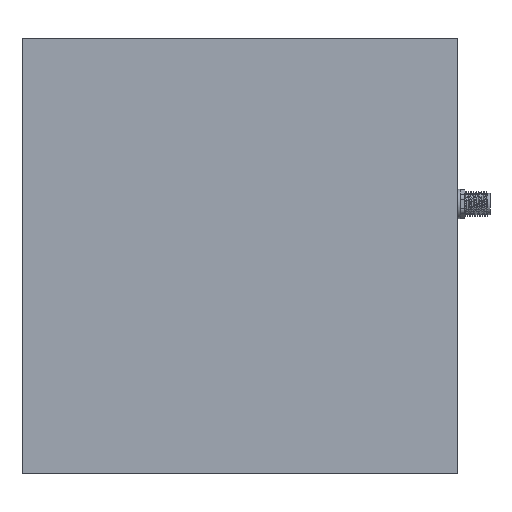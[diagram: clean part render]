
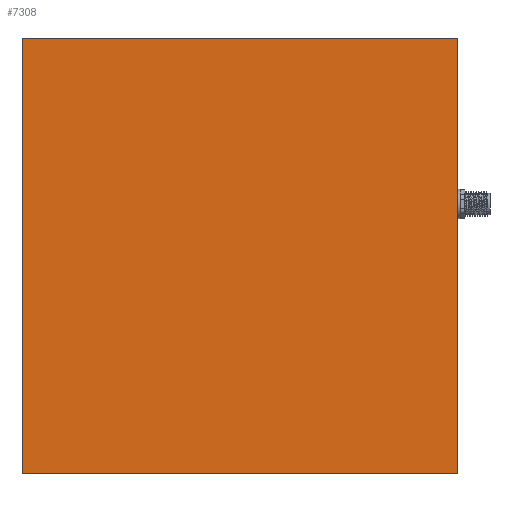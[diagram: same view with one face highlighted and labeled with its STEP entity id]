
A CAD part, top view. The second image highlights one B-rep face of the part: STEP entity #7308.
In plain terms, the highlighted planar face has unit normal (0, 0, 1).
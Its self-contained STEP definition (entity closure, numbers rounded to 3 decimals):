
#117 = EDGE_CURVE ( 'NONE', #4396, #11352, #14875, .T. ) ;
#583 = DIRECTION ( 'NONE',  ( 0., -1., 0. ) ) ;
#636 = AXIS2_PLACEMENT_3D ( 'NONE', #12482, #12631, #7870 ) ;
#1086 = VECTOR ( 'NONE', #8388, 1000. ) ;
#1640 = PLANE ( 'NONE',  #636 ) ;
#1980 = VERTEX_POINT ( 'NONE', #8571 ) ;
#2541 = EDGE_CURVE ( 'NONE', #1980, #4396, #10530, .T. ) ;
#2748 = DIRECTION ( 'NONE',  ( 0., 1., 0. ) ) ;
#3337 = VECTOR ( 'NONE', #2748, 1000. ) ;
#4096 = CARTESIAN_POINT ( 'NONE',  ( 209., 209., 21.06 ) ) ;
#4396 = VERTEX_POINT ( 'NONE', #5526 ) ;
#5239 = EDGE_CURVE ( 'NONE', #11352, #10094, #6016, .T. ) ;
#5526 = CARTESIAN_POINT ( 'NONE',  ( 209., -5., 21.06 ) ) ;
#5689 = CARTESIAN_POINT ( 'NONE',  ( -5., 209., 21.06 ) ) ;
#6016 = LINE ( 'NONE', #9578, #1086 ) ;
#6991 = ORIENTED_EDGE ( 'NONE', *, *, #5239, .T. ) ;
#7308 = ADVANCED_FACE ( 'NONE', ( #7641 ), #1640, .F. ) ;
#7641 = FACE_OUTER_BOUND ( 'NONE', #13274, .T. ) ;
#7818 = EDGE_CURVE ( 'NONE', #10094, #1980, #11425, .T. ) ;
#7870 = DIRECTION ( 'NONE',  ( -1., 0., 0. ) ) ;
#8388 = DIRECTION ( 'NONE',  ( -1., 0., 0. ) ) ;
#8571 = CARTESIAN_POINT ( 'NONE',  ( -5., -5., 21.06 ) ) ;
#8813 = CARTESIAN_POINT ( 'NONE',  ( -5., -5., 21.06 ) ) ;
#9578 = CARTESIAN_POINT ( 'NONE',  ( -5., 209., 21.06 ) ) ;
#10094 = VERTEX_POINT ( 'NONE', #5689 ) ;
#10530 = LINE ( 'NONE', #11640, #14891 ) ;
#10749 = VECTOR ( 'NONE', #583, 1000. ) ;
#11352 = VERTEX_POINT ( 'NONE', #14233 ) ;
#11425 = LINE ( 'NONE', #8813, #10749 ) ;
#11467 = ORIENTED_EDGE ( 'NONE', *, *, #117, .T. ) ;
#11640 = CARTESIAN_POINT ( 'NONE',  ( 209., -5., 21.06 ) ) ;
#12482 = CARTESIAN_POINT ( 'NONE',  ( 0., 0., 21.06 ) ) ;
#12631 = DIRECTION ( 'NONE',  ( 0., 0., -1. ) ) ;
#13274 = EDGE_LOOP ( 'NONE', ( #15343, #11467, #6991, #13984 ) ) ;
#13984 = ORIENTED_EDGE ( 'NONE', *, *, #7818, .T. ) ;
#14233 = CARTESIAN_POINT ( 'NONE',  ( 209., 209., 21.06 ) ) ;
#14875 = LINE ( 'NONE', #4096, #3337 ) ;
#14891 = VECTOR ( 'NONE', #15457, 1000. ) ;
#15343 = ORIENTED_EDGE ( 'NONE', *, *, #2541, .T. ) ;
#15457 = DIRECTION ( 'NONE',  ( 1., 0., 0. ) ) ;
